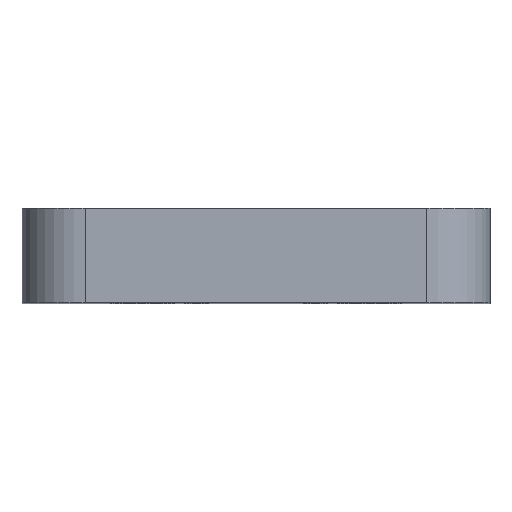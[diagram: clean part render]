
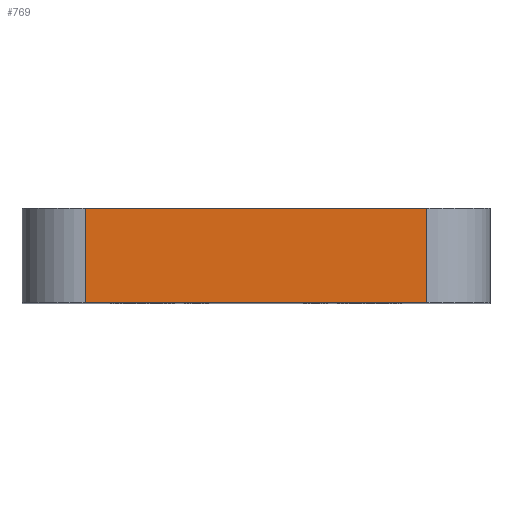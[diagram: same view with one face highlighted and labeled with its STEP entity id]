
A CAD part, top view. The second image highlights one B-rep face of the part: STEP entity #769.
In plain terms, the highlighted planar face has unit normal (0, 0, 1).
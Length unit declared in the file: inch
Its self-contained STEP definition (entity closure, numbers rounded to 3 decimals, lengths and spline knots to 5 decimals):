
#181 = VECTOR ( 'NONE', #551, 39.37008 ) ;
#271 = CARTESIAN_POINT ( 'NONE',  ( -0.675, 0., 1.25 ) ) ;
#411 = FACE_OUTER_BOUND ( 'NONE', #1444, .T. ) ;
#525 = EDGE_CURVE ( 'NONE', #1463, #624, #1380, .T. ) ;
#551 = DIRECTION ( 'NONE',  ( 0., -1., 0. ) ) ;
#624 = VERTEX_POINT ( 'NONE', #1313 ) ;
#632 = AXIS2_PLACEMENT_3D ( 'NONE', #1329, #923, #1533 ) ;
#642 = LINE ( 'NONE', #1502, #1005 ) ;
#667 = VECTOR ( 'NONE', #1067, 39.37008 ) ;
#681 = EDGE_CURVE ( 'NONE', #950, #1463, #642, .T. ) ;
#726 = ORIENTED_EDGE ( 'NONE', *, *, #1075, .T. ) ;
#769 = ADVANCED_FACE ( 'NONE', ( #411 ), #1586, .T. ) ;
#778 = ORIENTED_EDGE ( 'NONE', *, *, #681, .T. ) ;
#851 = LINE ( 'NONE', #271, #181 ) ;
#923 = DIRECTION ( 'NONE',  ( 0., 0., 1. ) ) ;
#924 = VERTEX_POINT ( 'NONE', #1128 ) ;
#950 = VERTEX_POINT ( 'NONE', #1479 ) ;
#1005 = VECTOR ( 'NONE', #1505, 39.37008 ) ;
#1052 = CARTESIAN_POINT ( 'NONE',  ( 0.675, 0., 1.25 ) ) ;
#1067 = DIRECTION ( 'NONE',  ( 0., 1., 0. ) ) ;
#1075 = EDGE_CURVE ( 'NONE', #924, #950, #851, .T. ) ;
#1080 = VECTOR ( 'NONE', #1186, 39.37008 ) ;
#1087 = ORIENTED_EDGE ( 'NONE', *, *, #1143, .F. ) ;
#1128 = CARTESIAN_POINT ( 'NONE',  ( -0.675, 0.375, 1.25 ) ) ;
#1143 = EDGE_CURVE ( 'NONE', #924, #624, #1433, .T. ) ;
#1173 = CARTESIAN_POINT ( 'NONE',  ( -0.925, 0.375, 1.25 ) ) ;
#1186 = DIRECTION ( 'NONE',  ( 1., 0., 0. ) ) ;
#1296 = CARTESIAN_POINT ( 'NONE',  ( 0.675, 0., 1.25 ) ) ;
#1313 = CARTESIAN_POINT ( 'NONE',  ( 0.675, 0.375, 1.25 ) ) ;
#1329 = CARTESIAN_POINT ( 'NONE',  ( -0.925, 0., 1.25 ) ) ;
#1380 = LINE ( 'NONE', #1052, #667 ) ;
#1403 = ORIENTED_EDGE ( 'NONE', *, *, #525, .T. ) ;
#1433 = LINE ( 'NONE', #1173, #1080 ) ;
#1444 = EDGE_LOOP ( 'NONE', ( #778, #1403, #1087, #726 ) ) ;
#1463 = VERTEX_POINT ( 'NONE', #1296 ) ;
#1479 = CARTESIAN_POINT ( 'NONE',  ( -0.675, 0., 1.25 ) ) ;
#1502 = CARTESIAN_POINT ( 'NONE',  ( -0.925, 0., 1.25 ) ) ;
#1505 = DIRECTION ( 'NONE',  ( 1., 0., 0. ) ) ;
#1533 = DIRECTION ( 'NONE',  ( 1., 0., 0. ) ) ;
#1586 = PLANE ( 'NONE',  #632 ) ;
